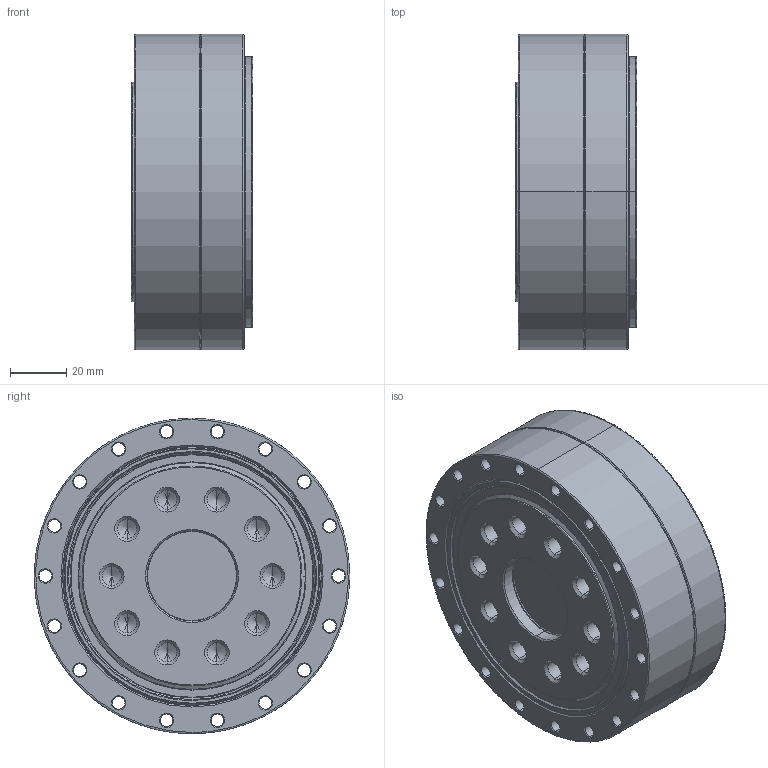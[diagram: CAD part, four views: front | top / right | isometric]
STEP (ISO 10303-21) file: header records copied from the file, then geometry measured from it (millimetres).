
FILE_DESCRIPTION (( 'STEP AP203' ), '1' );
FILE_NAME ('FXCSD-32-2UH迣疏熬厒儂[HCSD-32-2UH].STEP', '2020-07-21T11:33:46', ( '' ), ( '' ), 'SwSTEP 2.0', 'SolidWorks 2016', '' );
FILE_SCHEMA (( 'CONFIG_CONTROL_DESIGN' ));
Length unit declared in the file: millimetre
Products named in the file (17): HCSD-32-2UF-01 芧謫; hexagon socket head cap screws gb_GB_FASTENER_SCREWS_HSHCS M6X12-C; HCSD-32 柔性轴承保持架; HCSD-32 柔性轴承装配体; HCSD-32-2UH 嘎殤蚐猾; HCSD-32-2UH 幗翐; HCSD-32-2UH 交叉滚子轴承外圈; hexagon socket head cap screws gb_GB_FASTENER_SCREWS_HSHCS M3X20-C; O型圈 92.5-1.8 JB-T 6659-1993; HCSD-32 柔性轴承内圈; HCSD-32 柔性轴承外圈; HCSD-32-2UH-02 試謫; HCSD-32-2UH-01 柔轮; HCSD-32 柔性轴承钢球; HCSD-32-2UH 交叉滚子轴承内圈; HCSD-32-2UH 交叉滚子轴承装配体; FXCSD-32-2UH迣疏熬厒儂[HCSD-32-2UH]
Assembly tree (97 placements, depth 3):
  FXCSD-32-2UH迣疏熬厒儂[HCSD-32-2UH]
    HCSD-32-2UH 交叉滚子轴承装配体
      HCSD-32-2UH 交叉滚子轴承外圈
      HCSD-32-2UH 交叉滚子轴承内圈
      HCSD-32-2UH 嘎殤蚐猾
      HCSD-32-2UH 幗翐  x50
    HCSD-32-2UH-01 柔轮
    HCSD-32-2UH-02 試謫
    HCSD-32-2UF-01 芧謫
    HCSD-32 柔性轴承装配体
      HCSD-32 柔性轴承内圈
      HCSD-32 柔性轴承外圈
      HCSD-32 柔性轴承钢球  x23
      HCSD-32 柔性轴承保持架
    hexagon socket head cap screws gb_GB_FASTENER_SCREWS_HSHCS M6X12-C  x6
    hexagon socket head cap screws gb_GB_FASTENER_SCREWS_HSHCS M3X20-C  x6
    O型圈 92.5-1.8 JB-T 6659-1993
Bounding box: 43 x 112 x 112 mm (x, y, z)
Volume: 282030.9 mm3; surface area: 142352.3 mm2
Topology: 95 solids, 95 shells, 3240 faces, 8196 edges, 5130 vertices
Faces by surface type: plane 1393, bspline 979, cylinder 442, cone 426
Entity records: 111251 total; most frequent: CARTESIAN_POINT 47409, ORIENTED_EDGE 13532, DIRECTION 10480, EDGE_CURVE 6766, VERTEX_POINT 4364, LINE 4204, VECTOR 4204, AXIS2_PLACEMENT_3D 3138
